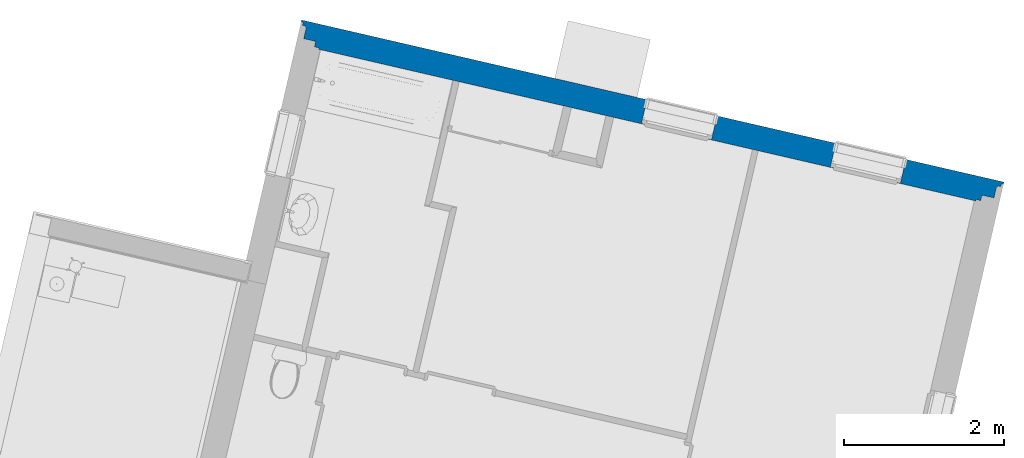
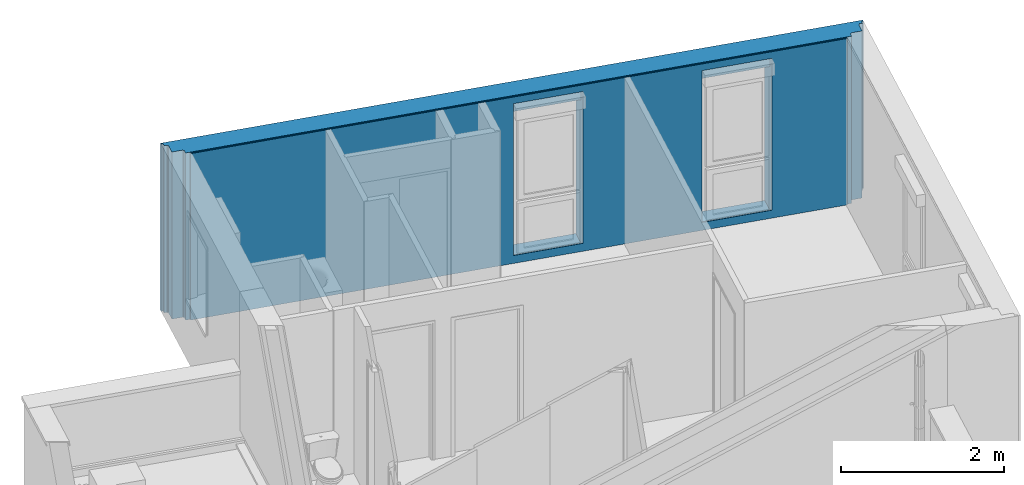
# One storey, part 2 of 47: 1 wall, 2 openings.
"""IFC2X3 building model written with IfcOpenShell, lengths in metres."""

from ifc_helpers import new_model, entity, si_unit, converted_unit, derived_unit, money_unit, direction, frame, origin_with_axes, place, context, subcontext, project, spatial, faceted_brep, material, material_list, type_object, element, save


model = new_model("IFC2X3")

# Units and contexts
model_context = context("Model", 3, precision=1e-05, world=origin_with_axes(), true_north=direction((0.0, 1.0)))
body_context = subcontext(model_context, "Body", "Model", "MODEL_VIEW")
ifc_project = project(units=[si_unit("LENGTHUNIT", "METRE"), si_unit("AREAUNIT", "SQUARE_METRE"), si_unit("VOLUMEUNIT", "CUBIC_METRE"), converted_unit("PLANEANGLEUNIT", "DEGREE", entity("IfcPlaneAngleMeasure", 0.0174532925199), si_unit("PLANEANGLEUNIT", "RADIAN"), dimensions=[0, 0, 0, 0, 0, 0, 0]), si_unit("SOLIDANGLEUNIT", "STERADIAN"), money_unit("EUR"), converted_unit("TIMEUNIT", "Year", entity("IfcTimeMeasure", 31556926.0), si_unit("TIMEUNIT", "SECOND"), dimensions=[0, 0, 1, 0, 0, 0, 0]), si_unit("MASSUNIT", "GRAM", prefix="KILO"), si_unit("THERMODYNAMICTEMPERATUREUNIT", "DEGREE_CELSIUS"), si_unit("LUMINOUSINTENSITYUNIT", "LUMEN"), si_unit("ENERGYUNIT", "JOULE", prefix="MEGA"), derived_unit("THERMALCONDUCTANCEUNIT", [(si_unit("POWERUNIT", "WATT"), 1), (si_unit("LENGTHUNIT", "METRE"), -1), (si_unit("THERMODYNAMICTEMPERATUREUNIT", "KELVIN"), -1)]), derived_unit("SPECIFICHEATCAPACITYUNIT", [(si_unit("ENERGYUNIT", "JOULE"), 1), (si_unit("MASSUNIT", "GRAM", prefix="KILO"), -1), (si_unit("THERMODYNAMICTEMPERATUREUNIT", "KELVIN"), -1)]), derived_unit("MASSDENSITYUNIT", [(si_unit("MASSUNIT", "GRAM", prefix="KILO"), 1), (si_unit("VOLUMEUNIT", "CUBIC_METRE"), -1)])], contexts=[model_context])

# Site, building, storey
site_placement = place(None, origin_with_axes())
site = spatial("IfcSite", under=ifc_project, at=site_placement, Name="Site", CompositionType="ELEMENT")
building_placement = place(site_placement, origin_with_axes())
building = spatial("IfcBuilding", under=site, at=building_placement, Name="Bâtiment", CompositionType="ELEMENT")
storey_placement = place(building_placement, frame((0.0, 0.0, 10.88), z_axis=(0.0, 0.0, 1.0), x_axis=(1.0, 0.0, 0.0)))
storey = spatial("IfcBuildingStorey", under=building, at=storey_placement, Name="R+4", CompositionType="ELEMENT", Elevation=10.88)

# Wall, openings
ifc_material_1 = material(Name="Finition int - Plaque de plâtre")
ifc_material_2 = material(Name="Isolation - Laine de verre")
ifc_material_3 = material(Name="Etanchéité - Pare-vapeur")
ifc_material_4 = material(Name="Bois - OSB 02")
ifc_material_5 = material(Name="Bois - Lattage")
ifc_material_6 = material(Name="Finition ext - Bardage bois")
ifc_material_list = material_list([ifc_material_1, ifc_material_2, ifc_material_3, ifc_material_2, ifc_material_4, ifc_material_5, ifc_material_6])
wall_type = type_object("IfcWallType", Name="1 - Mur Ossature Bois 145 isolé + bardage 310", PredefinedType="ELEMENTEDWALL")
wall_placement = place(storey_placement, frame((1.24356243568, 12.8226393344, 0.0), z_axis=(0.0, 0.0, 1.0), x_axis=(-0.974387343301, 0.224876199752, 0.0)))
wall = element("IfcWall", 1, at=wall_placement, inside=storey, type_object=wall_type, material=ifc_material_list, Name="M_Ext-007", ObjectType="ELEMENTEDWALL", context=body_context, shape_type="Brep", body=[
    faceted_brep([(0.277000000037, 0.292, 0.0), (8.72839052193, 0.292, 0.0), (8.72839052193, 0.292, 2.5), (0.277000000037, 0.292, 2.5), (4.57731714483, 0.292, 0.12), (4.57731714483, 0.292, 0.06), (3.67731714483, 0.292, 0.06), (3.67731714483, 0.292, 0.12), (3.67731714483, 0.292, 2.22), (3.67731714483, 0.292, 2.4), (4.57731714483, 0.292, 2.4), (4.57731714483, 0.292, 2.22), (2.14747870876, 0.292, 0.06), (1.24747870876, 0.292, 0.06), (1.24747870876, 0.292, 0.12), (1.24747870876, 0.292, 2.22), (1.24747870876, 0.292, 2.4), (2.14747870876, 0.292, 2.4), (2.14747870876, 0.292, 2.22), (2.14747870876, 0.292, 0.12), (0.277000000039, 0.31, 0.0), (8.72839052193, 0.31, 0.0), (8.72839052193, 0.31, 2.5), (0.277000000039, 0.31, 2.5), (4.57731714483, 0.296, 0.12), (4.57731714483, 0.296, 0.06), (4.57731714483, 0.31, 2.4), (4.57731714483, 0.31, 2.22), (4.57731714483, 0.31, 0.12), (3.67731714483, 0.296, 0.06), (3.67731714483, 0.296, 0.12), (3.67731714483, 0.31, 0.12), (3.67731714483, 0.31, 2.22), (3.67731714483, 0.31, 2.4), (2.14747870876, 0.296, 0.06), (1.24747870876, 0.296, 0.06), (1.24747870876, 0.296, 0.12), (1.24747870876, 0.31, 0.12), (1.24747870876, 0.31, 2.22), (1.24747870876, 0.31, 2.4), (2.14747870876, 0.31, 2.4), (2.14747870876, 0.296, 0.12), (2.14747870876, 0.31, 2.22), (2.14747870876, 0.31, 0.12)], [[[0, 1, 2, 3], [4, 5, 6, 7, 8, 9, 10, 11], [12, 13, 14, 15, 16, 17, 18, 19]], [[0, 20, 21, 1]], [[1, 21, 22, 2]], [[2, 22, 23, 3]], [[20, 0, 3, 23]], [[24, 25, 5, 4, 11, 10, 26, 27, 28]], [[29, 6, 5, 25]], [[7, 6, 29, 30, 31, 32, 33, 9, 8]], [[10, 9, 33, 26]], [[13, 12, 34, 35]], [[14, 13, 35, 36, 37, 38, 39, 16, 15]], [[16, 39, 40, 17]], [[41, 34, 12, 19, 18, 17, 40, 42, 43]], [[21, 20, 23, 22], [33, 32, 31, 28, 27, 26], [43, 42, 40, 39, 38, 37]], [[25, 24, 30, 29]], [[31, 30, 24, 28]], [[41, 36, 35, 34]], [[36, 41, 43, 37]]]),
    faceted_brep([(8.78839052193, 0.232, 0.0), (8.78839052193, 0.232, 2.51), (0.217000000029, 0.232, 2.51), (0.217000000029, 0.232, 0.0), (3.67731714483, 0.232, 2.4), (4.57731714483, 0.232, 2.4), (4.57731714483, 0.232, 2.22), (4.57731714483, 0.232, 0.12), (4.57731714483, 0.232, 0.06), (3.67731714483, 0.232, 0.06), (3.67731714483, 0.232, 0.12), (3.67731714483, 0.232, 2.22), (2.14747870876, 0.232, 0.06), (1.24747870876, 0.232, 0.06), (1.24747870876, 0.232, 0.12), (1.24747870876, 0.232, 2.22), (1.24747870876, 0.232, 2.4), (2.14747870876, 0.232, 2.4), (2.14747870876, 0.232, 2.22), (2.14747870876, 0.232, 0.12), (8.78839052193, 0.292, 0.0), (8.78839052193, 0.292, 2.51), (0.217000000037, 0.292, 2.51), (0.217000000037, 0.292, 0.0), (3.67731714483, 0.292, 2.4), (4.57731714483, 0.292, 2.4), (4.57731714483, 0.292, 2.22), (4.57731714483, 0.292, 0.12), (4.57731714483, 0.292, 0.06), (3.67731714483, 0.292, 0.06), (3.67731714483, 0.292, 2.22), (3.67731714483, 0.292, 0.12), (2.14747870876, 0.292, 0.06), (1.24747870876, 0.292, 0.06), (1.24747870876, 0.292, 0.12), (1.24747870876, 0.292, 2.22), (1.24747870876, 0.292, 2.4), (2.14747870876, 0.292, 2.4), (2.14747870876, 0.292, 0.12), (2.14747870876, 0.292, 2.22)], [[[0, 1, 2, 3], [4, 5, 6, 7, 8, 9, 10, 11], [12, 13, 14, 15, 16, 17, 18, 19]], [[0, 20, 21, 1]], [[1, 21, 22, 2]], [[22, 23, 3, 2]], [[20, 0, 3, 23]], [[4, 24, 25, 5]], [[6, 5, 25, 26, 27, 28, 8, 7]], [[9, 8, 28, 29]], [[30, 24, 4, 11, 10, 9, 29, 31]], [[13, 12, 32, 33]], [[14, 13, 33, 34, 35, 36, 16, 15]], [[16, 36, 37, 17]], [[38, 32, 12, 19, 18, 17, 37, 39]], [[21, 20, 23, 22], [24, 30, 31, 29, 28, 27, 26, 25], [32, 38, 39, 37, 36, 35, 34, 33]]]),
    faceted_brep([(0.207000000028, 0.222, 2.51), (0.207000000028, 0.222, 0.0), (8.79839052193, 0.222, 0.0), (8.79839052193, 0.222, 2.51), (3.67731714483, 0.222, 2.22), (4.57731714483, 0.222, 2.22), (4.57731714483, 0.222, 0.12), (4.57731714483, 0.222, 0.06), (3.67731714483, 0.222, 0.06), (3.67731714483, 0.222, 0.12), (2.14747870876, 0.222, 0.06), (1.24747870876, 0.222, 0.06), (1.24747870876, 0.222, 0.12), (1.24747870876, 0.222, 2.22), (2.14747870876, 0.222, 2.22), (2.14747870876, 0.222, 0.12), (0.207000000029, 0.232, 2.51), (0.207000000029, 0.232, 0.0), (8.79839052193, 0.232, 0.0), (8.79839052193, 0.232, 2.51), (3.67731714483, 0.225, 2.22), (4.57731714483, 0.225, 2.22), (4.57731714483, 0.232, 0.12), (4.57731714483, 0.232, 0.06), (4.57731714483, 0.225, 2.4), (4.57731714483, 0.232, 2.4), (4.57731714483, 0.232, 2.22), (3.67731714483, 0.232, 0.06), (3.67731714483, 0.232, 0.12), (3.67731714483, 0.232, 2.22), (3.67731714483, 0.232, 2.4), (3.67731714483, 0.225, 2.4), (2.14747870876, 0.232, 0.06), (1.24747870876, 0.232, 0.06), (1.24747870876, 0.232, 0.12), (1.24747870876, 0.232, 2.22), (1.24747870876, 0.232, 2.4), (1.24747870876, 0.225, 2.4), (1.24747870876, 0.225, 2.22), (2.14747870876, 0.225, 2.22), (2.14747870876, 0.232, 0.12), (2.14747870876, 0.225, 2.4), (2.14747870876, 0.232, 2.4), (2.14747870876, 0.232, 2.22)], [[[0, 1, 2, 3], [4, 5, 6, 7, 8, 9], [10, 11, 12, 13, 14, 15]], [[1, 0, 16, 17]], [[1, 17, 18, 2]], [[19, 3, 2, 18]], [[16, 0, 3, 19]], [[20, 21, 5, 4]], [[22, 23, 7, 6, 5, 21, 24, 25, 26]], [[27, 8, 7, 23]], [[9, 8, 27, 28, 29, 30, 31, 20, 4]], [[11, 10, 32, 33]], [[12, 11, 33, 34, 35, 36, 37, 38, 13]], [[39, 14, 13, 38]], [[40, 32, 10, 15, 14, 39, 41, 42, 43]], [[17, 16, 19, 18], [27, 23, 22, 26, 25, 30, 29, 28], [32, 40, 43, 42, 36, 35, 34, 33]], [[21, 20, 31, 24]], [[30, 25, 24, 31]], [[42, 41, 37, 36]], [[38, 37, 41, 39]]]),
    faceted_brep([(8.94339052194, 0.077, 0.0), (8.94339052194, 0.077, 2.51), (0.0620000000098, 0.077, 2.51), (0.0620000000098, 0.077, 0.0), (4.57731714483, 0.077, 0.06), (3.67731714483, 0.077, 0.06), (3.67731714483, 0.077, 0.12), (3.67731714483, 0.077, 2.22), (4.57731714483, 0.077, 2.22), (4.57731714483, 0.077, 0.12), (2.14747870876, 0.077, 0.06), (1.24747870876, 0.077, 0.06), (1.24747870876, 0.077, 0.12), (1.24747870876, 0.077, 2.22), (2.14747870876, 0.077, 2.22), (2.14747870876, 0.077, 0.12), (8.94339052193, 0.222, 0.0), (8.94339052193, 0.222, 2.51), (0.0620000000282, 0.222, 2.51), (0.0620000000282, 0.222, 0.0), (4.57731714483, 0.222, 0.06), (3.67731714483, 0.222, 0.06), (3.67731714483, 0.222, 0.12), (3.67731714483, 0.222, 2.22), (4.57731714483, 0.222, 2.22), (4.57731714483, 0.222, 0.12), (2.14747870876, 0.222, 0.06), (1.24747870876, 0.222, 0.06), (1.24747870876, 0.222, 0.12), (1.24747870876, 0.222, 2.22), (2.14747870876, 0.222, 2.22), (2.14747870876, 0.222, 0.12)], [[[0, 1, 2, 3], [4, 5, 6, 7, 8, 9], [10, 11, 12, 13, 14, 15]], [[0, 16, 17, 1]], [[1, 17, 18, 2]], [[18, 19, 3, 2]], [[16, 0, 3, 19]], [[20, 21, 5, 4]], [[6, 5, 21, 22, 23, 7]], [[24, 8, 7, 23]], [[25, 20, 4, 9, 8, 24]], [[11, 10, 26, 27]], [[12, 11, 27, 28, 29, 13]], [[13, 29, 30, 14]], [[31, 26, 10, 15, 14, 30]], [[17, 16, 19, 18], [20, 25, 24, 23, 22, 21], [26, 31, 30, 29, 28, 27]]]),
    faceted_brep([(8.95539052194, 0.065, 0.0), (8.95539052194, 0.065, 2.51), (0.0500000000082, 0.065, 2.51), (0.0500000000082, 0.065, 0.0), (4.57731714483, 0.065, 0.06), (3.67731714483, 0.065, 0.06), (3.67731714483, 0.065, 0.12), (3.67731714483, 0.065, 2.22), (4.57731714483, 0.065, 2.22), (4.57731714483, 0.065, 0.12), (2.14747870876, 0.065, 0.06), (1.24747870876, 0.065, 0.06), (1.24747870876, 0.065, 0.12), (1.24747870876, 0.065, 2.22), (2.14747870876, 0.065, 2.22), (2.14747870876, 0.065, 0.12), (8.95539052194, 0.077, 0.0), (8.95539052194, 0.077, 2.51), (0.0500000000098, 0.077, 2.51), (0.0500000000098, 0.077, 0.0), (4.57731714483, 0.077, 0.06), (3.67731714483, 0.077, 0.06), (3.67731714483, 0.077, 0.12), (3.67731714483, 0.077, 2.22), (4.57731714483, 0.077, 2.22), (4.57731714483, 0.077, 0.12), (2.14747870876, 0.077, 0.06), (1.24747870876, 0.077, 0.06), (1.24747870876, 0.077, 0.12), (1.24747870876, 0.077, 2.22), (2.14747870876, 0.077, 2.22), (2.14747870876, 0.077, 0.12)], [[[0, 1, 2, 3], [4, 5, 6, 7, 8, 9], [10, 11, 12, 13, 14, 15]], [[0, 16, 17, 1]], [[1, 17, 18, 2]], [[18, 19, 3, 2]], [[16, 0, 3, 19]], [[20, 21, 5, 4]], [[6, 5, 21, 22, 23, 7]], [[24, 8, 7, 23]], [[25, 20, 4, 9, 8, 24]], [[11, 10, 26, 27]], [[12, 11, 27, 28, 29, 13]], [[13, 29, 30, 14]], [[31, 26, 10, 15, 14, 30]], [[17, 16, 19, 18], [20, 25, 24, 23, 22, 21], [26, 31, 30, 29, 28, 27]]]),
    faceted_brep([(8.99539052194, 0.025, 0.0), (8.99539052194, 0.025, 2.51), (0.0100000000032, 0.025, 2.51), (0.0100000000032, 0.025, 0.0), (4.57731714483, 0.025, 0.06), (3.67731714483, 0.025, 0.06), (3.67731714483, 0.025, 0.12), (3.67731714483, 0.025, 2.22), (4.57731714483, 0.025, 2.22), (4.57731714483, 0.025, 0.12), (2.14747870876, 0.025, 0.06), (1.24747870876, 0.025, 0.06), (1.24747870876, 0.025, 0.12), (1.24747870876, 0.025, 2.22), (2.14747870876, 0.025, 2.22), (2.14747870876, 0.025, 0.12), (8.99539052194, 0.065, 0.0), (8.99539052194, 0.065, 2.51), (0.0100000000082, 0.065, 2.51), (0.0100000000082, 0.065, 0.0), (4.57731714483, 0.065, 0.06), (3.67731714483, 0.065, 0.06), (3.67731714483, 0.065, 0.12), (3.67731714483, 0.065, 2.22), (4.57731714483, 0.065, 2.22), (4.57731714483, 0.065, 0.12), (2.14747870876, 0.065, 0.06), (1.24747870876, 0.065, 0.06), (1.24747870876, 0.065, 0.12), (1.24747870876, 0.065, 2.22), (2.14747870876, 0.065, 2.22), (2.14747870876, 0.065, 0.12)], [[[0, 1, 2, 3], [4, 5, 6, 7, 8, 9], [10, 11, 12, 13, 14, 15]], [[0, 16, 17, 1]], [[1, 17, 18, 2]], [[18, 19, 3, 2]], [[16, 0, 3, 19]], [[20, 21, 5, 4]], [[6, 5, 21, 22, 23, 7]], [[24, 8, 7, 23]], [[25, 20, 4, 9, 8, 24]], [[11, 10, 26, 27]], [[12, 11, 27, 28, 29, 13]], [[13, 29, 30, 14]], [[31, 26, 10, 15, 14, 30]], [[17, 16, 19, 18], [20, 25, 24, 23, 22, 21], [26, 31, 30, 29, 28, 27]]]),
    faceted_brep([(9.02039052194, 0.0, 0.0), (9.02039052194, 0.0, 2.51), (-0.015, 0.0, 2.51), (-0.015, 0.0, 0.0), (4.57731714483, 0.0, 0.06), (3.67731714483, 0.0, 0.06), (3.67731714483, 0.0, 0.12), (3.67731714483, 0.0, 2.22), (4.57731714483, 0.0, 2.22), (4.57731714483, 0.0, 0.12), (2.14747870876, 0.0, 0.06), (1.24747870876, 0.0, 0.06), (1.24747870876, 0.0, 0.12), (1.24747870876, 0.0, 2.22), (2.14747870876, 0.0, 2.22), (2.14747870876, 0.0, 0.12), (9.02039052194, 0.025, 0.0), (9.02039052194, 0.025, 2.51), (-0.0149999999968, 0.025, 2.51), (-0.0149999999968, 0.025, 0.0), (4.57731714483, 0.025, 0.06), (3.67731714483, 0.025, 0.06), (3.67731714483, 0.025, 0.12), (3.67731714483, 0.025, 2.22), (4.57731714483, 0.025, 2.22), (4.57731714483, 0.025, 0.12), (2.14747870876, 0.025, 0.06), (1.24747870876, 0.025, 0.06), (1.24747870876, 0.025, 0.12), (1.24747870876, 0.025, 2.22), (2.14747870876, 0.025, 2.22), (2.14747870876, 0.025, 0.12)], [[[0, 1, 2, 3], [4, 5, 6, 7, 8, 9], [10, 11, 12, 13, 14, 15]], [[0, 16, 17, 1]], [[1, 17, 18, 2]], [[18, 19, 3, 2]], [[16, 0, 3, 19]], [[20, 21, 5, 4]], [[5, 21, 22, 6]], [[23, 7, 6, 22]], [[24, 8, 7, 23]], [[8, 24, 25, 9]], [[25, 20, 4, 9]], [[11, 10, 26, 27]], [[28, 12, 11, 27]], [[12, 28, 29, 13]], [[13, 29, 30, 14]], [[31, 15, 14, 30]], [[10, 15, 31, 26]], [[17, 16, 19, 18], [20, 25, 24, 23, 22, 21], [26, 31, 30, 29, 28, 27]]]),
])
opening_1_placement = place(wall_placement, frame((4.12731714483, 0.0, 0.12), z_axis=(0.0, 0.0, 1.0), x_axis=(1.0, 0.0, 0.0)))
element("IfcOpeningElement", 2, at=opening_1_placement, cuts=wall, Name="MEN 126", context=body_context, shape_type="Brep", body=[
    faceted_brep([(-0.45, 0.82, 0.0), (0.45, 0.82, 0.0), (0.45, 0.255, 0.0), (-0.45, 0.255, 0.0), (-0.45, 0.82, 2.1), (0.45, 0.82, 2.1), (0.45, 0.255, 2.1), (-0.45, 0.255, 2.1)], [[[0, 1, 2, 3]], [[0, 4, 5, 1]], [[1, 5, 6, 2]], [[3, 2, 6, 7]], [[4, 0, 3, 7]], [[5, 4, 7, 6]]]),
    faceted_brep([(-0.45, -0.31, 0.0), (-0.45, -0.31, 2.1), (-0.45, 0.255, 2.1), (-0.45, 0.255, 0.0), (0.45, -0.31, 0.0), (0.45, -0.31, 2.1), (0.45, 0.255, 2.1), (0.45, 0.255, 0.0)], [[[0, 1, 2, 3]], [[0, 4, 5, 1]], [[1, 5, 6, 2]], [[3, 2, 6, 7]], [[4, 0, 3, 7]], [[5, 4, 7, 6]]]),
    faceted_brep([(-0.45, -0.31, 0.0), (-0.45, -0.31, 2.1), (-0.45, 0.255, 2.1), (-0.45, 0.255, 0.0), (0.45, -0.31, 0.0), (0.45, -0.31, 2.1), (0.45, 0.255, 2.1), (0.45, 0.255, 0.0)], [[[0, 1, 2, 3]], [[0, 4, 5, 1]], [[1, 5, 6, 2]], [[3, 2, 6, 7]], [[4, 0, 3, 7]], [[5, 4, 7, 6]]]),
    faceted_brep([(-0.45, 0.79, 2.1), (0.45, 0.79, 2.1), (0.45, 0.225, 2.1), (-0.45, 0.225, 2.1), (-0.45, 0.79, 2.28), (0.45, 0.79, 2.28), (0.45, 0.225, 2.28), (-0.45, 0.225, 2.28)], [[[0, 1, 2, 3]], [[0, 4, 5, 1]], [[1, 5, 6, 2]], [[3, 2, 6, 7]], [[4, 0, 3, 7]], [[5, 4, 7, 6]]]),
    faceted_brep([(-0.45, -0.269, 0.0), (0.45, -0.269, 0.0), (0.45, 0.296, 0.0), (-0.45, 0.296, 0.0), (-0.45, -0.269, -0.06), (0.45, -0.269, -0.06), (0.45, 0.296, -0.06), (-0.45, 0.296, -0.06)], [[[0, 1, 2, 3]], [[0, 4, 5, 1]], [[1, 5, 6, 2]], [[3, 2, 6, 7]], [[4, 0, 3, 7]], [[5, 4, 7, 6]]]),
])
opening_2_placement = place(wall_placement, frame((1.69747870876, 0.0, 0.12), z_axis=(0.0, 0.0, 1.0), x_axis=(1.0, 0.0, 0.0)))
element("IfcOpeningElement", 3, at=opening_2_placement, cuts=wall, Name="MEN 125", context=body_context, shape_type="Brep", body=[
    faceted_brep([(0.45, 0.255, 0.0), (-0.45, 0.255, 0.0), (-0.45, 0.82, 0.0), (0.45, 0.82, 0.0), (0.45, 0.255, 2.1), (-0.45, 0.255, 2.1), (-0.45, 0.82, 2.1), (0.45, 0.82, 2.1)], [[[0, 1, 2, 3]], [[0, 4, 5, 1]], [[1, 5, 6, 2]], [[3, 2, 6, 7]], [[4, 0, 3, 7]], [[5, 4, 7, 6]]]),
    faceted_brep([(0.45, 0.255, 0.0), (0.45, 0.255, 2.1), (0.45, -0.31, 2.1), (0.45, -0.31, 0.0), (-0.45, 0.255, 0.0), (-0.45, 0.255, 2.1), (-0.45, -0.31, 2.1), (-0.45, -0.31, 0.0)], [[[0, 1, 2, 3]], [[0, 4, 5, 1]], [[1, 5, 6, 2]], [[3, 2, 6, 7]], [[4, 0, 3, 7]], [[5, 4, 7, 6]]]),
    faceted_brep([(0.45, 0.255, 0.0), (0.45, 0.255, 2.1), (0.45, -0.31, 2.1), (0.45, -0.31, 0.0), (-0.45, 0.255, 0.0), (-0.45, 0.255, 2.1), (-0.45, -0.31, 2.1), (-0.45, -0.31, 0.0)], [[[0, 1, 2, 3]], [[0, 4, 5, 1]], [[1, 5, 6, 2]], [[3, 2, 6, 7]], [[4, 0, 3, 7]], [[5, 4, 7, 6]]]),
    faceted_brep([(0.45, 0.225, 2.1), (-0.45, 0.225, 2.1), (-0.45, 0.79, 2.1), (0.45, 0.79, 2.1), (0.45, 0.225, 2.28), (-0.45, 0.225, 2.28), (-0.45, 0.79, 2.28), (0.45, 0.79, 2.28)], [[[0, 1, 2, 3]], [[0, 4, 5, 1]], [[1, 5, 6, 2]], [[3, 2, 6, 7]], [[4, 0, 3, 7]], [[5, 4, 7, 6]]]),
    faceted_brep([(0.45, 0.296, 0.0), (-0.45, 0.296, 0.0), (-0.45, -0.269, 0.0), (0.45, -0.269, 0.0), (0.45, 0.296, -0.06), (-0.45, 0.296, -0.06), (-0.45, -0.269, -0.06), (0.45, -0.269, -0.06)], [[[0, 1, 2, 3]], [[0, 4, 5, 1]], [[1, 5, 6, 2]], [[3, 2, 6, 7]], [[4, 0, 3, 7]], [[5, 4, 7, 6]]]),
])

save(model, "model.ifc")
